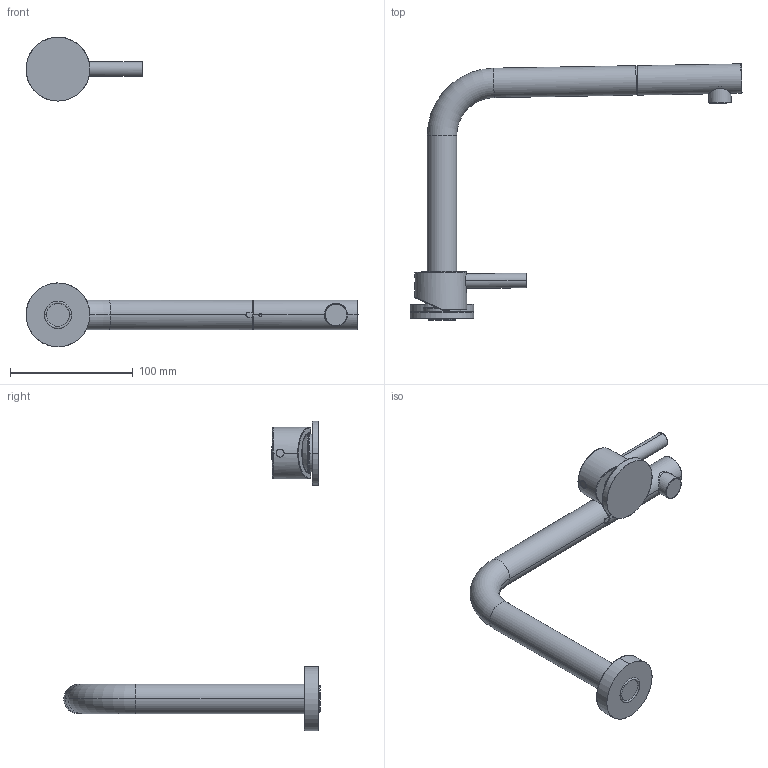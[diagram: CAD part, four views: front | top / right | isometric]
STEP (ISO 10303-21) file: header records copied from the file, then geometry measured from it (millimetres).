
FILE_DESCRIPTION(/* description */ (''),/* implementation_level */ '2;1');
FILE_NAME(/* name */ 'MTD5CR_igs.stp',/* time_stamp */ '2019-09-11T15:50:13+02:00',/* author */ (''),/* organization */ (''),/* preprocessor_version */ 'ST-DEVELOPER v16',/* originating_system */ 'SIEMENS PLM Software NX 11.0',/* authorisation */ '');
FILE_SCHEMA (('AUTOMOTIVE_DESIGN { 1 0 10303 214 3 1 1 1 }'));
Length unit declared in the file: millimetre
Products named in the file (1): Mart259CE25Enpm7
Bounding box: 270.19 x 208.58 x 252 mm (x, y, z)
Surface area: 57112 mm2 (no closed solid volume)
Topology: 0 solids, 124 shells, 124 faces, 546 edges, 544 vertices
Faces by surface type: bspline 40, cylinder 39, torus 22, plane 19, cone 2, sphere 2
Entity records: 9883 total; most frequent: CARTESIAN_POINT 5223, DIRECTION 638, ORIENTED_EDGE 544, VERTEX_POINT 544, EDGE_CURVE 544, AXIS2_PLACEMENT_3D 258, CIRCLE 173, STYLED_ITEM 124
